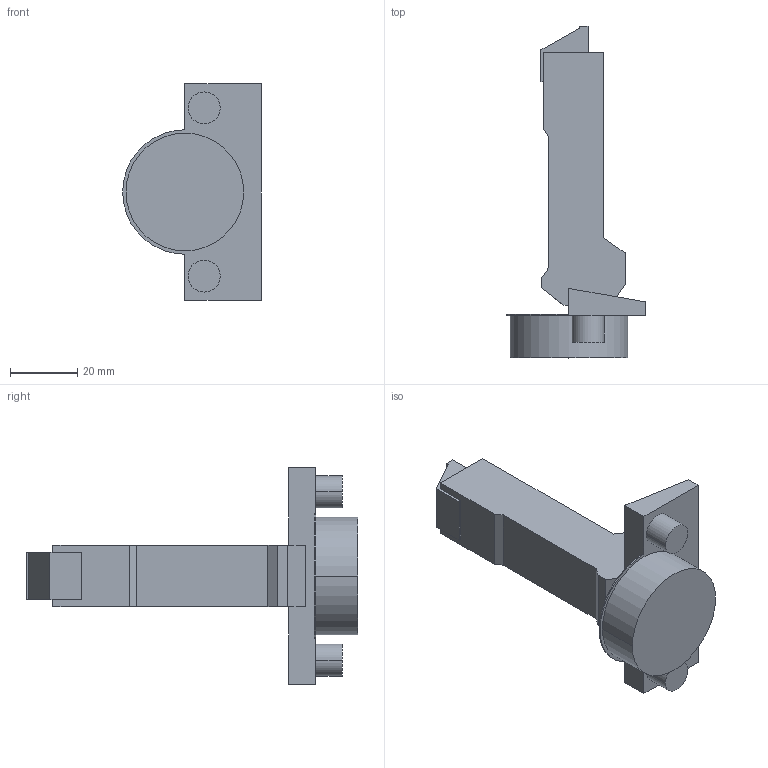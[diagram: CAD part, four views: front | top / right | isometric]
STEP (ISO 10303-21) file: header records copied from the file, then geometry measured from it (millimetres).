
FILE_DESCRIPTION (( 'STEP AP214' ), '1' );
FILE_NAME ('Scharnier TT Impresso 110° HS_BB, K95.step', '2010-12-06T09:55:01', ( 'grass' ), ( '' ), 'SwSTEP 2.0', 'SolidWorks 2010', '' );
FILE_SCHEMA (( 'AUTOMOTIVE_DESIGN' ));
Length unit declared in the file: millimetre
Products named in the file (1): Scharnier TT Impresso 110° HS_BB, K95
Bounding box: 41.25 x 98.7 x 64.5 mm (x, y, z)
Volume: 47070.7 mm3; surface area: 12940.6 mm2
Topology: 1 solids, 3 shells, 59 faces, 141 edges, 94 vertices
Faces by surface type: plane 42, cylinder 17
Entity records: 1739 total; most frequent: CARTESIAN_POINT 295, DIRECTION 295, ORIENTED_EDGE 282, EDGE_CURVE 141, LINE 107, VECTOR 107, AXIS2_PLACEMENT_3D 94, VERTEX_POINT 94
